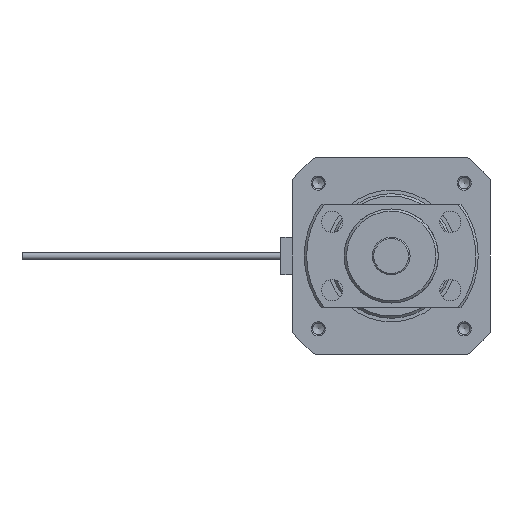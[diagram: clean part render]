
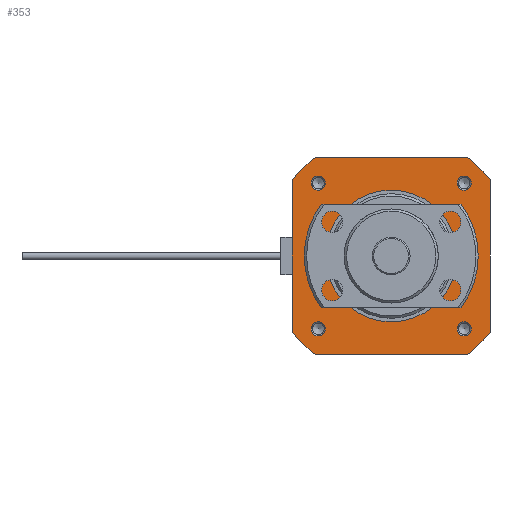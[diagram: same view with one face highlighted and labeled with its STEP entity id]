
A CAD part, left-side view. The second image highlights one B-rep face of the part: STEP entity #353.
In plain terms, the highlighted planar face has unit normal (-1, 0, 0) as drawn and (0, 0, 1) by its records, which use the part's own axes.
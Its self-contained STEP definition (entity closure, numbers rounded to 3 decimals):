
#353 = ADVANCED_FACE( '', ( #750, #751, #752, #753, #754, #755 ), #756, .T. );
#750 = FACE_BOUND( '', #1171, .T. );
#751 = FACE_BOUND( '', #1172, .T. );
#752 = FACE_BOUND( '', #1173, .T. );
#753 = FACE_BOUND( '', #1174, .T. );
#754 = FACE_BOUND( '', #1175, .T. );
#755 = FACE_OUTER_BOUND( '', #1176, .T. );
#756 = PLANE( '', #1177 );
#1171 = EDGE_LOOP( '', ( #1935 ) );
#1172 = EDGE_LOOP( '', ( #1936 ) );
#1173 = EDGE_LOOP( '', ( #1937 ) );
#1174 = EDGE_LOOP( '', ( #1938 ) );
#1175 = EDGE_LOOP( '', ( #1939 ) );
#1176 = EDGE_LOOP( '', ( #1940, #1941, #1942, #1943, #1944, #1945, #1946, #1947 ) );
#1177 = AXIS2_PLACEMENT_3D( '', #1948, #1949, #1950 );
#1935 = ORIENTED_EDGE( '', *, *, #2433, .T. );
#1936 = ORIENTED_EDGE( '', *, *, #2323, .T. );
#1937 = ORIENTED_EDGE( '', *, *, #2446, .T. );
#1938 = ORIENTED_EDGE( '', *, *, #2447, .T. );
#1939 = ORIENTED_EDGE( '', *, *, #2191, .T. );
#1940 = ORIENTED_EDGE( '', *, *, #2382, .T. );
#1941 = ORIENTED_EDGE( '', *, *, #2266, .T. );
#1942 = ORIENTED_EDGE( '', *, *, #2435, .T. );
#1943 = ORIENTED_EDGE( '', *, *, #2345, .T. );
#1944 = ORIENTED_EDGE( '', *, *, #2448, .T. );
#1945 = ORIENTED_EDGE( '', *, *, #2351, .T. );
#1946 = ORIENTED_EDGE( '', *, *, #2167, .T. );
#1947 = ORIENTED_EDGE( '', *, *, #2239, .T. );
#1948 = CARTESIAN_POINT( '', ( 0., 0., -205. ) );
#1949 = DIRECTION( '', ( 0., 0., 1. ) );
#1950 = DIRECTION( '', ( 1., 0., 0. ) );
#2167 = EDGE_CURVE( '', #2504, #2502, #2505, .T. );
#2191 = EDGE_CURVE( '', #2542, #2542, #2543, .T. );
#2239 = EDGE_CURVE( '', #2502, #2622, #2624, .T. );
#2266 = EDGE_CURVE( '', #2671, #2669, #2672, .T. );
#2323 = EDGE_CURVE( '', #2758, #2758, #2759, .T. );
#2345 = EDGE_CURVE( '', #2790, #2788, #2791, .T. );
#2351 = EDGE_CURVE( '', #2799, #2504, #2800, .T. );
#2382 = EDGE_CURVE( '', #2622, #2671, #2845, .T. );
#2433 = EDGE_CURVE( '', #2911, #2911, #2912, .T. );
#2435 = EDGE_CURVE( '', #2669, #2790, #2914, .T. );
#2446 = EDGE_CURVE( '', #2929, #2929, #2930, .T. );
#2447 = EDGE_CURVE( '', #2931, #2931, #2932, .T. );
#2448 = EDGE_CURVE( '', #2788, #2799, #2933, .T. );
#2502 = VERTEX_POINT( '', #2991 );
#2504 = VERTEX_POINT( '', #2994 );
#2505 = LINE( '', #2995, #2996 );
#2542 = VERTEX_POINT( '', #3040 );
#2543 = CIRCLE( '', #3041, 14. );
#2622 = VERTEX_POINT( '', #3140 );
#2624 = CIRCLE( '', #3143, 26.5 );
#2669 = VERTEX_POINT( '', #3251 );
#2671 = VERTEX_POINT( '', #3254 );
#2672 = CIRCLE( '', #3255, 26.5 );
#2758 = VERTEX_POINT( '', #3369 );
#2759 = CIRCLE( '', #3370, 1.5 );
#2788 = VERTEX_POINT( '', #3406 );
#2790 = VERTEX_POINT( '', #3409 );
#2791 = CIRCLE( '', #3410, 26.5 );
#2799 = VERTEX_POINT( '', #3419 );
#2800 = CIRCLE( '', #3420, 26.5 );
#2845 = LINE( '', #3544, #3545 );
#2911 = VERTEX_POINT( '', #3621 );
#2912 = CIRCLE( '', #3622, 1.5 );
#2914 = LINE( '', #3624, #3625 );
#2929 = VERTEX_POINT( '', #3644 );
#2930 = CIRCLE( '', #3645, 1.5 );
#2931 = VERTEX_POINT( '', #3646 );
#2932 = CIRCLE( '', #3647, 1.5 );
#2933 = LINE( '', #3648, #3649 );
#2991 = CARTESIAN_POINT( '', ( -16.163, 21., -205. ) );
#2994 = CARTESIAN_POINT( '', ( 16.163, 21., -205. ) );
#2995 = CARTESIAN_POINT( '', ( 16.163, 21., -205. ) );
#2996 = VECTOR( '', #3717, 1000. );
#3040 = CARTESIAN_POINT( '', ( -14., 0., -205. ) );
#3041 = AXIS2_PLACEMENT_3D( '', #3752, #3753, #3754 );
#3140 = CARTESIAN_POINT( '', ( -21., 16.163, -205. ) );
#3143 = AXIS2_PLACEMENT_3D( '', #3818, #3819, #3820 );
#3251 = CARTESIAN_POINT( '', ( -16.163, -21., -205. ) );
#3254 = CARTESIAN_POINT( '', ( -21., -16.163, -205. ) );
#3255 = AXIS2_PLACEMENT_3D( '', #3855, #3856, #3857 );
#3369 = CARTESIAN_POINT( '', ( -17., -15.5, -205. ) );
#3370 = AXIS2_PLACEMENT_3D( '', #3931, #3932, #3933 );
#3406 = CARTESIAN_POINT( '', ( 21., -16.163, -205. ) );
#3409 = CARTESIAN_POINT( '', ( 16.163, -21., -205. ) );
#3410 = AXIS2_PLACEMENT_3D( '', #3963, #3964, #3965 );
#3419 = CARTESIAN_POINT( '', ( 21., 16.163, -205. ) );
#3420 = AXIS2_PLACEMENT_3D( '', #3973, #3974, #3975 );
#3544 = CARTESIAN_POINT( '', ( -21., 16.163, -205. ) );
#3545 = VECTOR( '', #4005, 1000. );
#3621 = CARTESIAN_POINT( '', ( 14., -15.5, -205. ) );
#3622 = AXIS2_PLACEMENT_3D( '', #4070, #4071, #4072 );
#3624 = CARTESIAN_POINT( '', ( -16.163, -21., -205. ) );
#3625 = VECTOR( '', #4073, 1000. );
#3644 = CARTESIAN_POINT( '', ( -17., 15.5, -205. ) );
#3645 = AXIS2_PLACEMENT_3D( '', #4084, #4085, #4086 );
#3646 = CARTESIAN_POINT( '', ( 14., 15.5, -205. ) );
#3647 = AXIS2_PLACEMENT_3D( '', #4087, #4088, #4089 );
#3648 = CARTESIAN_POINT( '', ( 21., -16.163, -205. ) );
#3649 = VECTOR( '', #4090, 1000. );
#3717 = DIRECTION( '', ( -1., 0., 0. ) );
#3752 = CARTESIAN_POINT( '', ( 0., 0., -205. ) );
#3753 = DIRECTION( '', ( 0., 0., -1. ) );
#3754 = DIRECTION( '', ( -1., 0., 0. ) );
#3818 = CARTESIAN_POINT( '', ( 0., 0., -205. ) );
#3819 = DIRECTION( '', ( 0., 0., 1. ) );
#3820 = DIRECTION( '', ( 1., 0., 0. ) );
#3855 = CARTESIAN_POINT( '', ( 0., 0., -205. ) );
#3856 = DIRECTION( '', ( 0., 0., 1. ) );
#3857 = DIRECTION( '', ( 1., 0., 0. ) );
#3931 = CARTESIAN_POINT( '', ( -15.5, -15.5, -205. ) );
#3932 = DIRECTION( '', ( 0., 0., -1. ) );
#3933 = DIRECTION( '', ( -1., 0., 0. ) );
#3963 = CARTESIAN_POINT( '', ( 0., 0., -205. ) );
#3964 = DIRECTION( '', ( 0., 0., 1. ) );
#3965 = DIRECTION( '', ( 1., 0., 0. ) );
#3973 = CARTESIAN_POINT( '', ( 0., 0., -205. ) );
#3974 = DIRECTION( '', ( 0., 0., 1. ) );
#3975 = DIRECTION( '', ( 1., 0., 0. ) );
#4005 = DIRECTION( '', ( 0., -1., 0. ) );
#4070 = CARTESIAN_POINT( '', ( 15.5, -15.5, -205. ) );
#4071 = DIRECTION( '', ( 0., 0., -1. ) );
#4072 = DIRECTION( '', ( -1., 0., 0. ) );
#4073 = DIRECTION( '', ( 1., 0., 0. ) );
#4084 = CARTESIAN_POINT( '', ( -15.5, 15.5, -205. ) );
#4085 = DIRECTION( '', ( 0., 0., -1. ) );
#4086 = DIRECTION( '', ( -1., 0., 0. ) );
#4087 = CARTESIAN_POINT( '', ( 15.5, 15.5, -205. ) );
#4088 = DIRECTION( '', ( 0., 0., -1. ) );
#4089 = DIRECTION( '', ( -1., 0., 0. ) );
#4090 = DIRECTION( '', ( 0., 1., 0. ) );
